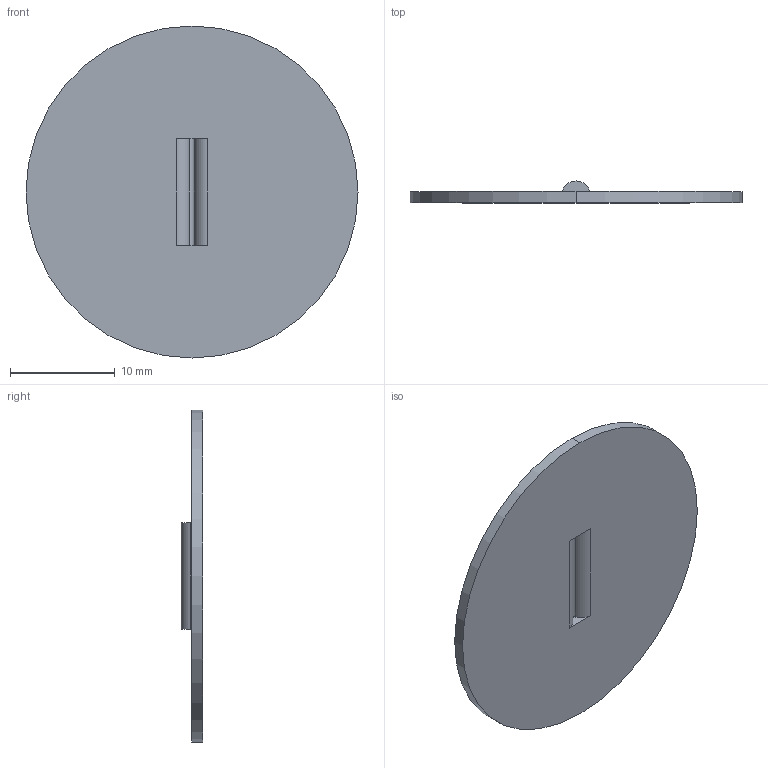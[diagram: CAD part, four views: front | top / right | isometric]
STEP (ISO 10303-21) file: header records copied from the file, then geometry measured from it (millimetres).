
FILE_DESCRIPTION (( 'STEP AP203' ), '1' );
FILE_NAME ('1194624-10.STEP', '2024-11-14T17:35:12', ( '' ), ( '' ), 'SwSTEP 2.0', 'SolidWorks 2024', '' );
FILE_SCHEMA (( 'CONFIG_CONTROL_DESIGN' ));
Length unit declared in the file: inch
Products named in the file (1): 1194624-10
Bounding box: 31.75 x 2.08 x 31.75 mm (x, y, z)
Volume: 854 mm3; surface area: 1713.6 mm2
Topology: 1 solids, 1 shells, 14 faces, 30 edges, 20 vertices
Faces by surface type: cylinder 8, plane 6
Entity records: 469 total; most frequent: DIRECTION 76, CARTESIAN_POINT 65, ORIENTED_EDGE 60, AXIS2_PLACEMENT_3D 31, EDGE_CURVE 30, VERTEX_POINT 20, CIRCLE 16, EDGE_LOOP 16
